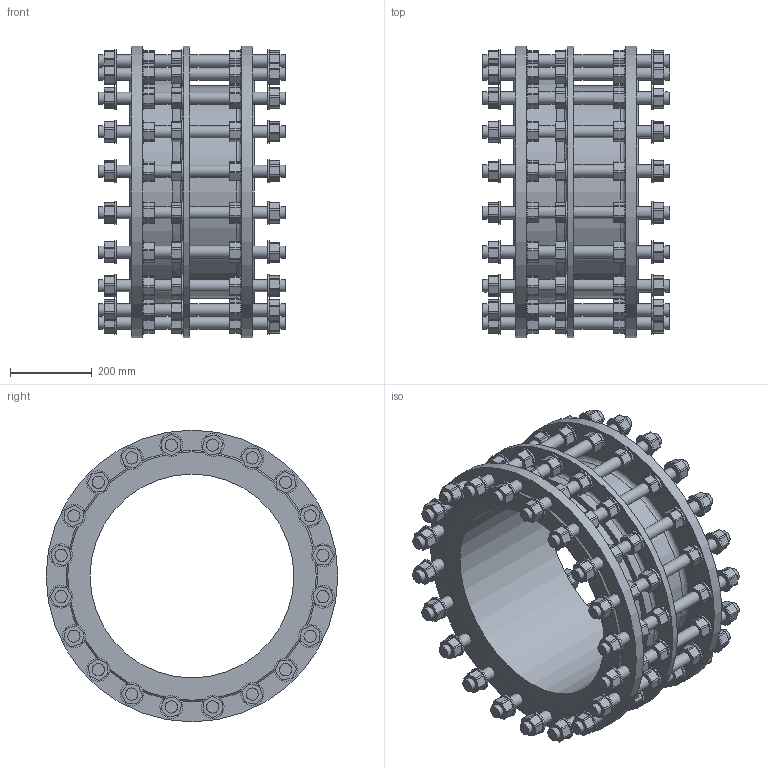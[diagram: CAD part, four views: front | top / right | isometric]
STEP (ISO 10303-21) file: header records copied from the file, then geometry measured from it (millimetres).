
FILE_DESCRIPTION (( 'STEP AP203' ), '1' );
FILE_NAME ('O_265_910_DN500_1XXXXX00_L=305_REV01.step', '2024-10-11T10:42:10', ( '' ), ( '' ), 'SwSTEP 2.0', 'SolidWorks 2022', '' );
FILE_SCHEMA (( 'CONFIG_CONTROL_DESIGN' ));
Length unit declared in the file: millimetre
Products named in the file (1): O_265_910_DN500_1XXXXX00_L=305_REV01
Bounding box: 460 x 715 x 715 mm (x, y, z)
Volume: 31684020.6 mm3; surface area: 3116443.7 mm2
Topology: 1 solids, 1 shells, 1780 faces, 4682 edges, 3155 vertices
Faces by surface type: plane 928, cylinder 828, torus 21, cone 3
Full cylindrical faces by diameter (mm): 30 x120, 56 x80, 500 x1, 520 x1, 556 x1, 715 x3
Entity records: 54480 total; most frequent: CARTESIAN_POINT 10142, DIRECTION 9513, ORIENTED_EDGE 8738, EDGE_CURVE 4369, AXIS2_PLACEMENT_3D 3503, VERTEX_POINT 3052, LINE 2507, VECTOR 2507
